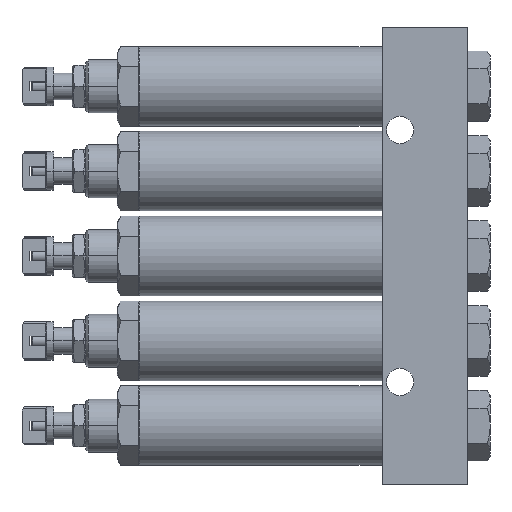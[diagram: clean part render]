
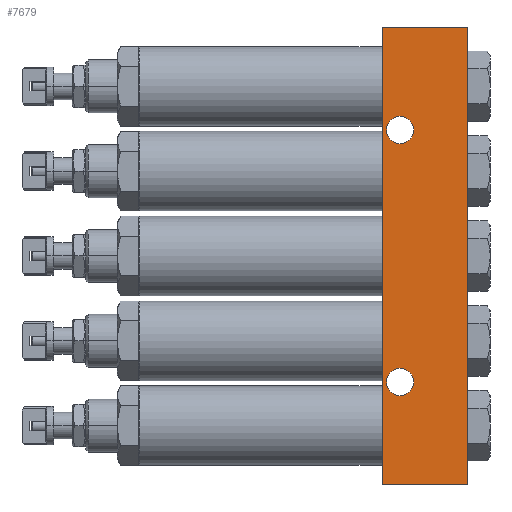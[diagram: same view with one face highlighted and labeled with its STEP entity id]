
A CAD part, left-side view. The second image highlights one B-rep face of the part: STEP entity #7679.
In plain terms, the highlighted planar face has unit normal (-1, 0, 0).
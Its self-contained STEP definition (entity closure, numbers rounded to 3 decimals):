
#344 = VERTEX_POINT ( 'NONE', #8482 ) ;
#396 = VECTOR ( 'NONE', #1218, 1000. ) ;
#658 = CARTESIAN_POINT ( 'NONE',  ( -39.141, -57.885, -11.35 ) ) ;
#1218 = DIRECTION ( 'NONE',  ( 0., -1., 0. ) ) ;
#1248 = DIRECTION ( 'NONE',  ( 0., 0., -1. ) ) ;
#1349 = ORIENTED_EDGE ( 'NONE', *, *, #4741, .T. ) ;
#1661 = CARTESIAN_POINT ( 'NONE',  ( -39.141, -51.285, 22. ) ) ;
#2213 = EDGE_CURVE ( 'NONE', #5641, #2726, #17049, .T. ) ;
#2502 = ORIENTED_EDGE ( 'NONE', *, *, #5197, .T. ) ;
#2572 = EDGE_LOOP ( 'NONE', ( #7720, #18266, #18312, #12347 ) ) ;
#2726 = VERTEX_POINT ( 'NONE', #19081 ) ;
#2788 = CARTESIAN_POINT ( 'NONE',  ( -39.141, -51.285, 22. ) ) ;
#2792 = CARTESIAN_POINT ( 'NONE',  ( -39.141, -57.885, -16.5 ) ) ;
#3005 = DIRECTION ( 'NONE',  ( 1., 0., 0. ) ) ;
#3063 = AXIS2_PLACEMENT_3D ( 'NONE', #12646, #15868, #5089 ) ;
#3088 = ORIENTED_EDGE ( 'NONE', *, *, #13433, .T. ) ;
#3747 = AXIS2_PLACEMENT_3D ( 'NONE', #19387, #7005, #13176 ) ;
#3769 = FACE_BOUND ( 'NONE', #8665, .T. ) ;
#3770 = CARTESIAN_POINT ( 'NONE',  ( -39.141, -57.885, -106.35 ) ) ;
#4278 = ORIENTED_EDGE ( 'NONE', *, *, #2213, .T. ) ;
#4543 = LINE ( 'NONE', #2788, #396 ) ;
#4712 = AXIS2_PLACEMENT_3D ( 'NONE', #11753, #14898, #19618 ) ;
#4741 = EDGE_CURVE ( 'NONE', #6241, #11537, #14335, .T. ) ;
#4934 = VERTEX_POINT ( 'NONE', #1661 ) ;
#5089 = DIRECTION ( 'NONE',  ( 0., 0., -1. ) ) ;
#5160 = CARTESIAN_POINT ( 'NONE',  ( -39.141, -83.285, 22. ) ) ;
#5197 = EDGE_CURVE ( 'NONE', #11537, #6241, #11362, .T. ) ;
#5641 = VERTEX_POINT ( 'NONE', #3770 ) ;
#5963 = CARTESIAN_POINT ( 'NONE',  ( -39.141, -57.885, -111.5 ) ) ;
#6241 = VERTEX_POINT ( 'NONE', #8800 ) ;
#6686 = VERTEX_POINT ( 'NONE', #9160 ) ;
#7005 = DIRECTION ( 'NONE',  ( 1., 0., 0. ) ) ;
#7149 = DIRECTION ( 'NONE',  ( 0., 0., 1. ) ) ;
#7172 = AXIS2_PLACEMENT_3D ( 'NONE', #2792, #12254, #13698 ) ;
#7679 = ADVANCED_FACE ( 'NONE', ( #17177, #3769, #13271 ), #8633, .F. ) ;
#7720 = ORIENTED_EDGE ( 'NONE', *, *, #15751, .T. ) ;
#8430 = VERTEX_POINT ( 'NONE', #5160 ) ;
#8482 = CARTESIAN_POINT ( 'NONE',  ( -39.141, -51.285, -150. ) ) ;
#8633 = PLANE ( 'NONE',  #4712 ) ;
#8665 = EDGE_LOOP ( 'NONE', ( #1349, #2502 ) ) ;
#8800 = CARTESIAN_POINT ( 'NONE',  ( -39.141, -57.885, -21.65 ) ) ;
#8978 = CIRCLE ( 'NONE', #20260, 5.15 ) ;
#9160 = CARTESIAN_POINT ( 'NONE',  ( -39.141, -83.285, -150. ) ) ;
#9228 = VECTOR ( 'NONE', #7149, 1000. ) ;
#10064 = CARTESIAN_POINT ( 'NONE',  ( -39.141, -51.285, 22. ) ) ;
#10409 = VECTOR ( 'NONE', #17591, 1000. ) ;
#11099 = DIRECTION ( 'NONE',  ( 0., 0., 1. ) ) ;
#11362 = CIRCLE ( 'NONE', #7172, 5.15 ) ;
#11537 = VERTEX_POINT ( 'NONE', #658 ) ;
#11753 = CARTESIAN_POINT ( 'NONE',  ( -39.141, -51.285, 22. ) ) ;
#12254 = DIRECTION ( 'NONE',  ( 1., 0., 0. ) ) ;
#12347 = ORIENTED_EDGE ( 'NONE', *, *, #16436, .T. ) ;
#12646 = CARTESIAN_POINT ( 'NONE',  ( -39.141, -57.885, -111.5 ) ) ;
#12740 = CARTESIAN_POINT ( 'NONE',  ( -39.141, -83.285, 22. ) ) ;
#13176 = DIRECTION ( 'NONE',  ( 0., 0., -1. ) ) ;
#13271 = FACE_OUTER_BOUND ( 'NONE', #2572, .T. ) ;
#13433 = EDGE_CURVE ( 'NONE', #2726, #5641, #8978, .T. ) ;
#13585 = EDGE_LOOP ( 'NONE', ( #3088, #4278 ) ) ;
#13698 = DIRECTION ( 'NONE',  ( 0., 0., -1. ) ) ;
#14335 = CIRCLE ( 'NONE', #3747, 5.15 ) ;
#14450 = EDGE_CURVE ( 'NONE', #4934, #8430, #4543, .T. ) ;
#14466 = CARTESIAN_POINT ( 'NONE',  ( -39.141, -51.285, -150. ) ) ;
#14549 = LINE ( 'NONE', #14466, #10409 ) ;
#14898 = DIRECTION ( 'NONE',  ( 1., 0., 0. ) ) ;
#15751 = EDGE_CURVE ( 'NONE', #6686, #8430, #18950, .T. ) ;
#15868 = DIRECTION ( 'NONE',  ( 1., 0., 0. ) ) ;
#16046 = LINE ( 'NONE', #10064, #9228 ) ;
#16436 = EDGE_CURVE ( 'NONE', #344, #6686, #14549, .T. ) ;
#17049 = CIRCLE ( 'NONE', #3063, 5.15 ) ;
#17177 = FACE_BOUND ( 'NONE', #13585, .T. ) ;
#17477 = VECTOR ( 'NONE', #11099, 1000. ) ;
#17591 = DIRECTION ( 'NONE',  ( 0., -1., 0. ) ) ;
#18266 = ORIENTED_EDGE ( 'NONE', *, *, #14450, .F. ) ;
#18312 = ORIENTED_EDGE ( 'NONE', *, *, #19345, .F. ) ;
#18950 = LINE ( 'NONE', #12740, #17477 ) ;
#19081 = CARTESIAN_POINT ( 'NONE',  ( -39.141, -57.885, -116.65 ) ) ;
#19345 = EDGE_CURVE ( 'NONE', #344, #4934, #16046, .T. ) ;
#19387 = CARTESIAN_POINT ( 'NONE',  ( -39.141, -57.885, -16.5 ) ) ;
#19618 = DIRECTION ( 'NONE',  ( 0., 0., -1. ) ) ;
#20260 = AXIS2_PLACEMENT_3D ( 'NONE', #5963, #3005, #1248 ) ;
